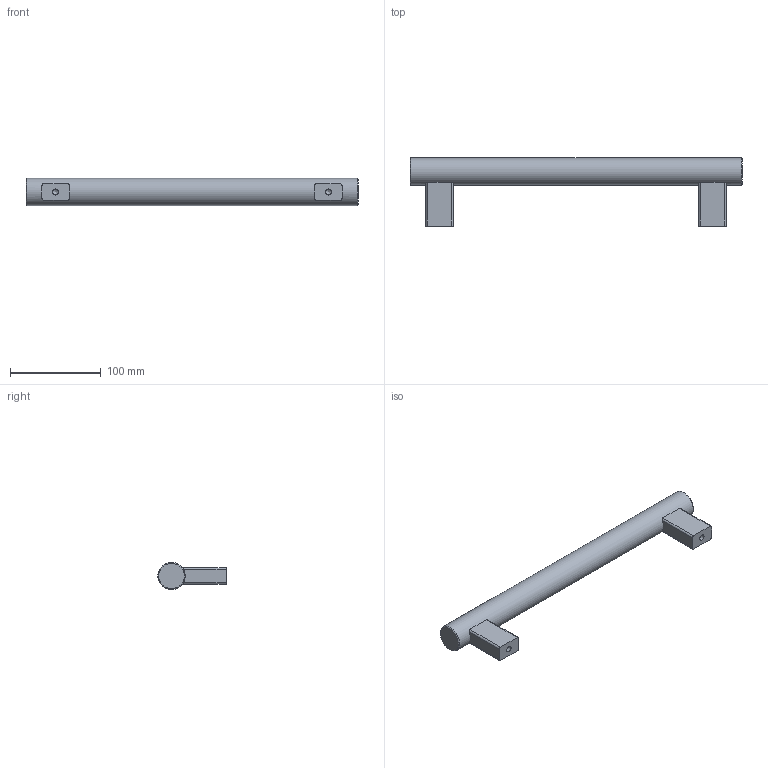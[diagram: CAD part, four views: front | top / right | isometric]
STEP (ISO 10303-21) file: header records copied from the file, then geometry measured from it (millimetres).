
FILE_DESCRIPTION( ( 'STEP AP203' ), '1' );
FILE_NAME( 'C:/Temp/Ganter_Step_05_03_2020/data/1_2/gn_666/Tubular handle GN 666-30-M8-300-ELG.stp', '2020-03-05T10:18:18', ( 'License CC BY-ND 4.0' ), ( 'CADENAS' ), ' ', 'PARTsolutions', ' ' );
FILE_SCHEMA( ( 'CONFIG_CONTROL_DESIGN' ) );
Length unit declared in the file: millimetre
Products named in the file (1): _Tubular handle GN 666-30-M8-300-ELG
Bounding box: 365 x 75 x 30 mm (x, y, z)
Volume: 305922.8 mm3; surface area: 45124.4 mm2
Topology: 1 solids, 1 shells, 27 faces, 65 edges, 42 vertices
Faces by surface type: plane 12, cylinder 11, cone 4
Full cylindrical faces by diameter (mm): 6.647 x2, 30 x1
Entity records: 882 total; most frequent: CARTESIAN_POINT 238, DIRECTION 124, ORIENTED_EDGE 112, EDGE_CURVE 56, AXIS2_PLACEMENT_3D 48, VERTEX_POINT 42, EDGE_LOOP 36, FACE_OUTER_BOUND 30
